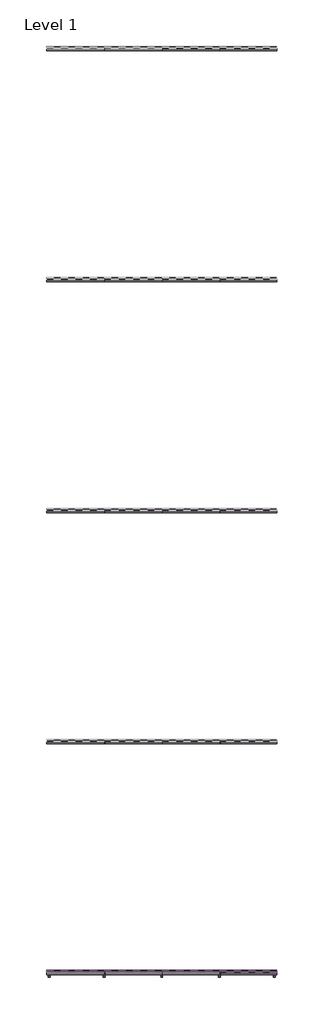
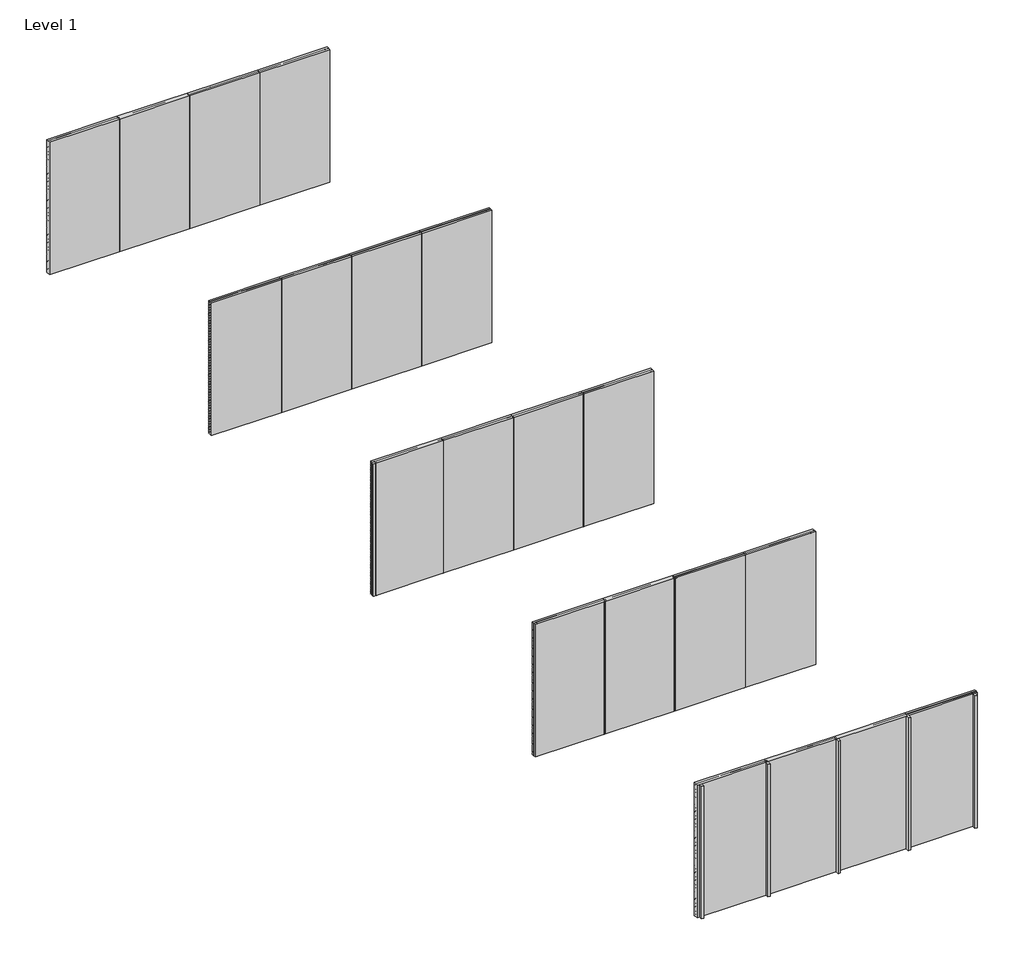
# One storey, part 1 of 3: 58 proxies, 25 members, 25 plates.
"""IFC4 building model written with IfcOpenShell, lengths in millimetres."""

from ifc_helpers import new_model, si_unit, frame, origin, origin_with_axes, place, context, project, spatial, polyline, outline, extrude, transform, mapped, element, save
from components import rectangular_mullion_07ce7cd6, rectangular_mullion_a32b29a9, rectangular_mullion_bbbcbd30, rectangular_mullion_f8d4a220, rectangular_mullion_81aaf6fe, rectangular_mullion_6e08dc26, rectangular_mullion_8b624eba, rectangular_mullion_7f158cb3, rectangular_mullion_66519e13, rectangular_mullion_5829b51c, rectangular_mullion_75c52e10, rectangular_mullion_40295cf1, rectangular_mullion_16d87653, rectangular_mullion_6cfc0fe8, rectangular_mullion_5af3f62c, empty_system_panel_empty_ae16e1e1

model = new_model("IFC4")

# Units and contexts
model_context = context("Model", 3, world=origin())
ifc_project = project(units=[si_unit("LENGTHUNIT", "METRE", prefix="MILLI")], contexts=[model_context])

# Site, building, storey
site = spatial("IfcSite", under=ifc_project)
building = spatial("IfcBuilding", under=site)
storey = spatial("IfcBuildingStorey", under=building, Name="Level 1", Elevation=0.0)

# Proxies
placement = place(None, origin())
element("IfcBuildingElementProxy", 1, Name="Wall Sweeps", at=placement, inside=storey, context=model_context, shape_type="SweptSolid", body=[
    extrude(outline(polyline([(-19995.0, 3000.0), (-19995.0, 2998.0), (-19938.8, 2932.7), (-19938.8, 2916.7), (-19997.0, 2984.3238434), (-19997.0, 3000.0), (-19995.0, 3000.0)])), frame((0.0, 0.0, 0.0), z_axis=(1.0, 0.0, 0.0), x_axis=(0.0, 1.0, 0.0)), (0.0, 0.0, 1.0), 6000.0),
])
element("IfcBuildingElementProxy", 2, Name="Wall Sweeps", at=placement, inside=storey, context=model_context, shape_type="SweptSolid", body=[
    extrude(outline(polyline([(-19995.0, 2940.0), (-19995.0, 2938.0), (-19938.8, 2872.7), (-19938.8, 2856.7), (-19997.0, 2924.3238434), (-19997.0, 2940.0), (-19995.0, 2940.0)])), frame((0.0, 0.0, 0.0), z_axis=(1.0, 0.0, 0.0), x_axis=(0.0, 1.0, 0.0)), (0.0, 0.0, 1.0), 6000.0),
])
element("IfcBuildingElementProxy", 3, Name="Wall Sweeps", at=placement, inside=storey, context=model_context, shape_type="SweptSolid", body=[
    extrude(outline(polyline([(-19995.0, 2880.0), (-19995.0, 2878.0), (-19938.8, 2812.7), (-19938.8, 2796.7), (-19997.0, 2864.3238434), (-19997.0, 2880.0), (-19995.0, 2880.0)])), frame((0.0, 0.0, 0.0), z_axis=(1.0, 0.0, 0.0), x_axis=(0.0, 1.0, 0.0)), (0.0, 0.0, 1.0), 6000.0),
])
element("IfcBuildingElementProxy", 4, Name="Wall Sweeps", at=placement, inside=storey, context=model_context, shape_type="SweptSolid", body=[
    extrude(outline(polyline([(-19995.0, 2820.0), (-19995.0, 2818.0), (-19938.8, 2752.7), (-19938.8, 2736.7), (-19997.0, 2804.3238434), (-19997.0, 2820.0), (-19995.0, 2820.0)])), frame((0.0, 0.0, 0.0), z_axis=(1.0, 0.0, 0.0), x_axis=(0.0, 1.0, 0.0)), (0.0, 0.0, 1.0), 6000.0),
])
element("IfcBuildingElementProxy", 5, Name="Wall Sweeps", at=placement, inside=storey, context=model_context, shape_type="SweptSolid", body=[
    extrude(outline(polyline([(-19995.0, 2760.0), (-19995.0, 2758.0), (-19938.8, 2692.7), (-19938.8, 2676.7), (-19997.0, 2744.3238434), (-19997.0, 2760.0), (-19995.0, 2760.0)])), frame((0.0, 0.0, 0.0), z_axis=(1.0, 0.0, 0.0), x_axis=(0.0, 1.0, 0.0)), (0.0, 0.0, 1.0), 6000.0),
])
element("IfcBuildingElementProxy", 6, Name="Wall Sweeps", at=placement, inside=storey, context=model_context, shape_type="SweptSolid", body=[
    extrude(outline(polyline([(-19995.0, 2700.0), (-19995.0, 2698.0), (-19938.8, 2632.7), (-19938.8, 2616.7), (-19997.0, 2684.3238434), (-19997.0, 2700.0), (-19995.0, 2700.0)])), frame((0.0, 0.0, 0.0), z_axis=(1.0, 0.0, 0.0), x_axis=(0.0, 1.0, 0.0)), (0.0, 0.0, 1.0), 6000.0),
])
element("IfcBuildingElementProxy", 7, Name="Wall Sweeps", at=placement, inside=storey, context=model_context, shape_type="SweptSolid", body=[
    extrude(outline(polyline([(-19995.0, 2640.0), (-19995.0, 2638.0), (-19938.8, 2572.7), (-19938.8, 2556.7), (-19997.0, 2624.3238434), (-19997.0, 2640.0), (-19995.0, 2640.0)])), frame((0.0, 0.0, 0.0), z_axis=(1.0, 0.0, 0.0), x_axis=(0.0, 1.0, 0.0)), (0.0, 0.0, 1.0), 6000.0),
])
element("IfcBuildingElementProxy", 8, Name="Wall Sweeps", at=placement, inside=storey, context=model_context, shape_type="SweptSolid", body=[
    extrude(outline(polyline([(-19995.0, 2580.0), (-19995.0, 2578.0), (-19938.8, 2512.7), (-19938.8, 2496.7), (-19997.0, 2564.3238434), (-19997.0, 2580.0), (-19995.0, 2580.0)])), frame((0.0, 0.0, 0.0), z_axis=(1.0, 0.0, 0.0), x_axis=(0.0, 1.0, 0.0)), (0.0, 0.0, 1.0), 6000.0),
])
element("IfcBuildingElementProxy", 9, Name="Wall Sweeps", at=placement, inside=storey, context=model_context, shape_type="SweptSolid", body=[
    extrude(outline(polyline([(-25995.0, 3000.0), (-25995.0, 2998.0), (-25938.8, 2932.7), (-25938.8, 2916.7), (-25997.0, 2984.3238434), (-25997.0, 3000.0), (-25995.0, 3000.0)])), frame((0.0, 0.0, 0.0), z_axis=(1.0, 0.0, 0.0), x_axis=(0.0, 1.0, 0.0)), (0.0, 0.0, 1.0), 6000.0),
])
element("IfcBuildingElementProxy", 10, Name="Wall Sweeps", at=placement, inside=storey, context=model_context, shape_type="SweptSolid", body=[
    extrude(outline(polyline([(-25995.0, 2940.0), (-25995.0, 2938.0), (-25938.8, 2872.7), (-25938.8, 2856.7), (-25997.0, 2924.3238434), (-25997.0, 2940.0), (-25995.0, 2940.0)])), frame((0.0, 0.0, 0.0), z_axis=(1.0, 0.0, 0.0), x_axis=(0.0, 1.0, 0.0)), (0.0, 0.0, 1.0), 6000.0),
])
element("IfcBuildingElementProxy", 11, Name="Wall Sweeps", at=placement, inside=storey, context=model_context, shape_type="SweptSolid", body=[
    extrude(outline(polyline([(-25995.0, 2880.0), (-25995.0, 2878.0), (-25938.8, 2812.7), (-25938.8, 2796.7), (-25997.0, 2864.3238434), (-25997.0, 2880.0), (-25995.0, 2880.0)])), frame((0.0, 0.0, 0.0), z_axis=(1.0, 0.0, 0.0), x_axis=(0.0, 1.0, 0.0)), (0.0, 0.0, 1.0), 6000.0),
])
element("IfcBuildingElementProxy", 12, Name="Wall Sweeps", at=placement, inside=storey, context=model_context, shape_type="SweptSolid", body=[
    extrude(outline(polyline([(-25995.0, 2820.0), (-25995.0, 2818.0), (-25938.8, 2752.7), (-25938.8, 2736.7), (-25997.0, 2804.3238434), (-25997.0, 2820.0), (-25995.0, 2820.0)])), frame((0.0, 0.0, 0.0), z_axis=(1.0, 0.0, 0.0), x_axis=(0.0, 1.0, 0.0)), (0.0, 0.0, 1.0), 6000.0),
])
element("IfcBuildingElementProxy", 13, Name="Wall Sweeps", at=placement, inside=storey, context=model_context, shape_type="SweptSolid", body=[
    extrude(outline(polyline([(-25995.0, 2760.0), (-25995.0, 2758.0), (-25938.8, 2692.7), (-25938.8, 2676.7), (-25997.0, 2744.3238434), (-25997.0, 2760.0), (-25995.0, 2760.0)])), frame((0.0, 0.0, 0.0), z_axis=(1.0, 0.0, 0.0), x_axis=(0.0, 1.0, 0.0)), (0.0, 0.0, 1.0), 6000.0),
])
element("IfcBuildingElementProxy", 14, Name="Wall Sweeps", at=placement, inside=storey, context=model_context, shape_type="SweptSolid", body=[
    extrude(outline(polyline([(-25995.0, 2700.0), (-25995.0, 2698.0), (-25938.8, 2632.7), (-25938.8, 2616.7), (-25997.0, 2684.3238434), (-25997.0, 2700.0), (-25995.0, 2700.0)])), frame((0.0, 0.0, 0.0), z_axis=(1.0, 0.0, 0.0), x_axis=(0.0, 1.0, 0.0)), (0.0, 0.0, 1.0), 6000.0),
])
element("IfcBuildingElementProxy", 15, Name="Wall Sweeps", at=placement, inside=storey, context=model_context, shape_type="SweptSolid", body=[
    extrude(outline(polyline([(-25995.0, 2640.0), (-25995.0, 2638.0), (-25938.8, 2572.7), (-25938.8, 2556.7), (-25997.0, 2624.3238434), (-25997.0, 2640.0), (-25995.0, 2640.0)])), frame((0.0, 0.0, 0.0), z_axis=(1.0, 0.0, 0.0), x_axis=(0.0, 1.0, 0.0)), (0.0, 0.0, 1.0), 6000.0),
])
element("IfcBuildingElementProxy", 16, Name="Wall Sweeps", at=placement, inside=storey, context=model_context, shape_type="SweptSolid", body=[
    extrude(outline(polyline([(-25995.0, 2580.0), (-25995.0, 2578.0), (-25938.8, 2512.7), (-25938.8, 2496.7), (-25997.0, 2564.3238434), (-25997.0, 2580.0), (-25995.0, 2580.0)])), frame((0.0, 0.0, 0.0), z_axis=(1.0, 0.0, 0.0), x_axis=(0.0, 1.0, 0.0)), (0.0, 0.0, 1.0), 6000.0),
])
element("IfcBuildingElementProxy", 17, Name="Wall Sweeps", at=placement, inside=storey, context=model_context, shape_type="SweptSolid", body=[
    extrude(outline(polyline([(-25995.0, 2520.0), (-25995.0, 2518.0), (-25938.8, 2452.7), (-25938.8, 2436.7), (-25997.0, 2504.3238434), (-25997.0, 2520.0), (-25995.0, 2520.0)])), frame((0.0, 0.0, 0.0), z_axis=(1.0, 0.0, 0.0), x_axis=(0.0, 1.0, 0.0)), (0.0, 0.0, 1.0), 6000.0),
])
element("IfcBuildingElementProxy", 18, Name="Wall Sweeps", at=placement, inside=storey, context=model_context, shape_type="SweptSolid", body=[
    extrude(outline(polyline([(-25995.0, 2460.0), (-25995.0, 2458.0), (-25938.8, 2392.7), (-25938.8, 2376.7), (-25997.0, 2444.3238434), (-25997.0, 2460.0), (-25995.0, 2460.0)])), frame((0.0, 0.0, 0.0), z_axis=(1.0, 0.0, 0.0), x_axis=(0.0, 1.0, 0.0)), (0.0, 0.0, 1.0), 6000.0),
])
element("IfcBuildingElementProxy", 19, Name="Wall Sweeps", at=placement, inside=storey, context=model_context, shape_type="SweptSolid", body=[
    extrude(outline(polyline([(-25995.0, 2400.0), (-25995.0, 2398.0), (-25938.8, 2332.7), (-25938.8, 2316.7), (-25997.0, 2384.3238434), (-25997.0, 2400.0), (-25995.0, 2400.0)])), frame((0.0, 0.0, 0.0), z_axis=(1.0, 0.0, 0.0), x_axis=(0.0, 1.0, 0.0)), (0.0, 0.0, 1.0), 6000.0),
])
element("IfcBuildingElementProxy", 20, Name="Wall Sweeps", at=placement, inside=storey, context=model_context, shape_type="SweptSolid", body=[
    extrude(outline(polyline([(-25995.0, 2340.0), (-25995.0, 2338.0), (-25938.8, 2272.7), (-25938.8, 2256.7), (-25997.0, 2324.3238434), (-25997.0, 2340.0), (-25995.0, 2340.0)])), frame((0.0, 0.0, 0.0), z_axis=(1.0, 0.0, 0.0), x_axis=(0.0, 1.0, 0.0)), (0.0, 0.0, 1.0), 6000.0),
])
element("IfcBuildingElementProxy", 21, Name="Wall Sweeps", at=placement, inside=storey, context=model_context, shape_type="SweptSolid", body=[
    extrude(outline(polyline([(-25995.0, 2280.0), (-25995.0, 2278.0), (-25938.8, 2212.7), (-25938.8, 2196.7), (-25997.0, 2264.3238434), (-25997.0, 2280.0), (-25995.0, 2280.0)])), frame((0.0, 0.0, 0.0), z_axis=(1.0, 0.0, 0.0), x_axis=(0.0, 1.0, 0.0)), (0.0, 0.0, 1.0), 6000.0),
])
element("IfcBuildingElementProxy", 22, Name="Wall Sweeps", at=placement, inside=storey, context=model_context, shape_type="SweptSolid", body=[
    extrude(outline(polyline([(-25995.0, 2220.0), (-25995.0, 2218.0), (-25938.8, 2152.7), (-25938.8, 2136.7), (-25997.0, 2204.3238434), (-25997.0, 2220.0), (-25995.0, 2220.0)])), frame((0.0, 0.0, 0.0), z_axis=(1.0, 0.0, 0.0), x_axis=(0.0, 1.0, 0.0)), (0.0, 0.0, 1.0), 6000.0),
])
element("IfcBuildingElementProxy", 23, Name="Wall Sweeps", at=placement, inside=storey, context=model_context, shape_type="SweptSolid", body=[
    extrude(outline(polyline([(-25995.0, 2160.0), (-25995.0, 2158.0), (-25938.8, 2092.7), (-25938.8, 2076.7), (-25997.0, 2144.3238434), (-25997.0, 2160.0), (-25995.0, 2160.0)])), frame((0.0, 0.0, 0.0), z_axis=(1.0, 0.0, 0.0), x_axis=(0.0, 1.0, 0.0)), (0.0, 0.0, 1.0), 6000.0),
])
element("IfcBuildingElementProxy", 24, Name="Wall Sweeps", at=placement, inside=storey, context=model_context, shape_type="SweptSolid", body=[
    extrude(outline(polyline([(-25995.0, 2100.0), (-25995.0, 2098.0), (-25938.8, 2032.7), (-25938.8, 2016.7), (-25997.0, 2084.3238434), (-25997.0, 2100.0), (-25995.0, 2100.0)])), frame((0.0, 0.0, 0.0), z_axis=(1.0, 0.0, 0.0), x_axis=(0.0, 1.0, 0.0)), (0.0, 0.0, 1.0), 6000.0),
])
element("IfcBuildingElementProxy", 25, Name="Wall Sweeps", at=placement, inside=storey, context=model_context, shape_type="SweptSolid", body=[
    extrude(outline(polyline([(-25995.0, 2040.0), (-25995.0, 2038.0), (-25938.8, 1972.7), (-25938.8, 1956.7), (-25997.0, 2024.3238434), (-25997.0, 2040.0), (-25995.0, 2040.0)])), frame((0.0, 0.0, 0.0), z_axis=(1.0, 0.0, 0.0), x_axis=(0.0, 1.0, 0.0)), (0.0, 0.0, 1.0), 6000.0),
])
element("IfcBuildingElementProxy", 26, Name="Wall Sweeps", at=placement, inside=storey, context=model_context, shape_type="SweptSolid", body=[
    extrude(outline(polyline([(-25995.0, 1980.0), (-25995.0, 1978.0), (-25938.8, 1912.7), (-25938.8, 1896.7), (-25997.0, 1964.3238434), (-25997.0, 1980.0), (-25995.0, 1980.0)])), frame((0.0, 0.0, 0.0), z_axis=(1.0, 0.0, 0.0), x_axis=(0.0, 1.0, 0.0)), (0.0, 0.0, 1.0), 6000.0),
])
element("IfcBuildingElementProxy", 27, Name="Wall Sweeps", at=placement, inside=storey, context=model_context, shape_type="SweptSolid", body=[
    extrude(outline(polyline([(-25995.0, 1920.0), (-25995.0, 1918.0), (-25938.8, 1852.7), (-25938.8, 1836.7), (-25997.0, 1904.3238434), (-25997.0, 1920.0), (-25995.0, 1920.0)])), frame((0.0, 0.0, 0.0), z_axis=(1.0, 0.0, 0.0), x_axis=(0.0, 1.0, 0.0)), (0.0, 0.0, 1.0), 6000.0),
])
element("IfcBuildingElementProxy", 28, Name="Wall Sweeps", at=placement, inside=storey, context=model_context, shape_type="SweptSolid", body=[
    extrude(outline(polyline([(-25995.0, 1860.0), (-25995.0, 1858.0), (-25938.8, 1792.7), (-25938.8, 1776.7), (-25997.0, 1844.3238434), (-25997.0, 1860.0), (-25995.0, 1860.0)])), frame((0.0, 0.0, 0.0), z_axis=(1.0, 0.0, 0.0), x_axis=(0.0, 1.0, 0.0)), (0.0, 0.0, 1.0), 6000.0),
])
element("IfcBuildingElementProxy", 29, Name="Wall Sweeps", at=placement, inside=storey, context=model_context, shape_type="SweptSolid", body=[
    extrude(outline(polyline([(-25995.0, 1800.0), (-25995.0, 1798.0), (-25938.8, 1732.7), (-25938.8, 1716.7), (-25997.0, 1784.3238434), (-25997.0, 1800.0), (-25995.0, 1800.0)])), frame((0.0, 0.0, 0.0), z_axis=(1.0, 0.0, 0.0), x_axis=(0.0, 1.0, 0.0)), (0.0, 0.0, 1.0), 6000.0),
])
element("IfcBuildingElementProxy", 30, Name="Wall Sweeps", at=placement, inside=storey, context=model_context, shape_type="SweptSolid", body=[
    extrude(outline(polyline([(-25995.0, 1740.0), (-25995.0, 1738.0), (-25938.8, 1672.7), (-25938.8, 1656.7), (-25997.0, 1724.3238434), (-25997.0, 1740.0), (-25995.0, 1740.0)])), frame((0.0, 0.0, 0.0), z_axis=(1.0, 0.0, 0.0), x_axis=(0.0, 1.0, 0.0)), (0.0, 0.0, 1.0), 6000.0),
])
element("IfcBuildingElementProxy", 31, Name="Wall Sweeps", at=placement, inside=storey, context=model_context, shape_type="SweptSolid", body=[
    extrude(outline(polyline([(-25995.0, 1680.0), (-25995.0, 1678.0), (-25938.8, 1612.7), (-25938.8, 1596.7), (-25997.0, 1664.3238434), (-25997.0, 1680.0), (-25995.0, 1680.0)])), frame((0.0, 0.0, 0.0), z_axis=(1.0, 0.0, 0.0), x_axis=(0.0, 1.0, 0.0)), (0.0, 0.0, 1.0), 6000.0),
])
element("IfcBuildingElementProxy", 32, Name="Wall Sweeps", at=placement, inside=storey, context=model_context, shape_type="SweptSolid", body=[
    extrude(outline(polyline([(-25995.0, 1620.0), (-25995.0, 1618.0), (-25938.8, 1552.7), (-25938.8, 1536.7), (-25997.0, 1604.3238434), (-25997.0, 1620.0), (-25995.0, 1620.0)])), frame((0.0, 0.0, 0.0), z_axis=(1.0, 0.0, 0.0), x_axis=(0.0, 1.0, 0.0)), (0.0, 0.0, 1.0), 6000.0),
])
element("IfcBuildingElementProxy", 33, Name="Wall Sweeps", at=placement, inside=storey, context=model_context, shape_type="SweptSolid", body=[
    extrude(outline(polyline([(-25995.0, 1560.0), (-25995.0, 1558.0), (-25938.8, 1492.7), (-25938.8, 1476.7), (-25997.0, 1544.3238434), (-25997.0, 1560.0), (-25995.0, 1560.0)])), frame((0.0, 0.0, 0.0), z_axis=(1.0, 0.0, 0.0), x_axis=(0.0, 1.0, 0.0)), (0.0, 0.0, 1.0), 6000.0),
])
element("IfcBuildingElementProxy", 34, Name="Wall Sweeps", at=placement, inside=storey, context=model_context, shape_type="SweptSolid", body=[
    extrude(outline(polyline([(-25995.0, 1500.0), (-25995.0, 1498.0), (-25938.8, 1432.7), (-25938.8, 1416.7), (-25997.0, 1484.3238434), (-25997.0, 1500.0), (-25995.0, 1500.0)])), frame((0.0, 0.0, 0.0), z_axis=(1.0, 0.0, 0.0), x_axis=(0.0, 1.0, 0.0)), (0.0, 0.0, 1.0), 6000.0),
])
element("IfcBuildingElementProxy", 35, Name="Wall Sweeps", at=placement, inside=storey, context=model_context, shape_type="SweptSolid", body=[
    extrude(outline(polyline([(-25995.0, 1440.0), (-25995.0, 1438.0), (-25938.8, 1372.7), (-25938.8, 1356.7), (-25997.0, 1424.3238434), (-25997.0, 1440.0), (-25995.0, 1440.0)])), frame((0.0, 0.0, 0.0), z_axis=(1.0, 0.0, 0.0), x_axis=(0.0, 1.0, 0.0)), (0.0, 0.0, 1.0), 6000.0),
])
element("IfcBuildingElementProxy", 36, Name="Wall Sweeps", at=placement, inside=storey, context=model_context, shape_type="SweptSolid", body=[
    extrude(outline(polyline([(-25995.0, 1380.0), (-25995.0, 1378.0), (-25938.8, 1312.7), (-25938.8, 1296.7), (-25997.0, 1364.3238434), (-25997.0, 1380.0), (-25995.0, 1380.0)])), frame((0.0, 0.0, 0.0), z_axis=(1.0, 0.0, 0.0), x_axis=(0.0, 1.0, 0.0)), (0.0, 0.0, 1.0), 6000.0),
])
element("IfcBuildingElementProxy", 37, Name="Wall Sweeps", at=placement, inside=storey, context=model_context, shape_type="SweptSolid", body=[
    extrude(outline(polyline([(-25995.0, 1320.0), (-25995.0, 1318.0), (-25938.8, 1252.7), (-25938.8, 1236.7), (-25997.0, 1304.3238434), (-25997.0, 1320.0), (-25995.0, 1320.0)])), frame((0.0, 0.0, 0.0), z_axis=(1.0, 0.0, 0.0), x_axis=(0.0, 1.0, 0.0)), (0.0, 0.0, 1.0), 6000.0),
])
element("IfcBuildingElementProxy", 38, Name="Wall Sweeps", at=placement, inside=storey, context=model_context, shape_type="SweptSolid", body=[
    extrude(outline(polyline([(-25995.0, 1260.0), (-25995.0, 1258.0), (-25938.8, 1192.7), (-25938.8, 1176.7), (-25997.0, 1244.3238434), (-25997.0, 1260.0), (-25995.0, 1260.0)])), frame((0.0, 0.0, 0.0), z_axis=(1.0, 0.0, 0.0), x_axis=(0.0, 1.0, 0.0)), (0.0, 0.0, 1.0), 6000.0),
])
element("IfcBuildingElementProxy", 39, Name="Wall Sweeps", at=placement, inside=storey, context=model_context, shape_type="SweptSolid", body=[
    extrude(outline(polyline([(-25995.0, 1200.0), (-25995.0, 1198.0), (-25938.8, 1132.7), (-25938.8, 1116.7), (-25997.0, 1184.3238434), (-25997.0, 1200.0), (-25995.0, 1200.0)])), frame((0.0, 0.0, 0.0), z_axis=(1.0, 0.0, 0.0), x_axis=(0.0, 1.0, 0.0)), (0.0, 0.0, 1.0), 6000.0),
])
element("IfcBuildingElementProxy", 40, Name="Wall Sweeps", at=placement, inside=storey, context=model_context, shape_type="SweptSolid", body=[
    extrude(outline(polyline([(-25995.0, 1140.0), (-25995.0, 1138.0), (-25938.8, 1072.7), (-25938.8, 1056.7), (-25997.0, 1124.3238434), (-25997.0, 1140.0), (-25995.0, 1140.0)])), frame((0.0, 0.0, 0.0), z_axis=(1.0, 0.0, 0.0), x_axis=(0.0, 1.0, 0.0)), (0.0, 0.0, 1.0), 6000.0),
])
element("IfcBuildingElementProxy", 41, Name="Wall Sweeps", at=placement, inside=storey, context=model_context, shape_type="SweptSolid", body=[
    extrude(outline(polyline([(-25995.0, 1080.0), (-25995.0, 1078.0), (-25938.8, 1012.7), (-25938.8, 996.7), (-25997.0, 1064.3238434), (-25997.0, 1080.0), (-25995.0, 1080.0)])), frame((0.0, 0.0, 0.0), z_axis=(1.0, 0.0, 0.0), x_axis=(0.0, 1.0, 0.0)), (0.0, 0.0, 1.0), 6000.0),
])
element("IfcBuildingElementProxy", 42, Name="Wall Sweeps", at=placement, inside=storey, context=model_context, shape_type="SweptSolid", body=[
    extrude(outline(polyline([(-25995.0, 1020.0), (-25995.0, 1018.0), (-25938.8, 952.7), (-25938.8, 936.7), (-25997.0, 1004.3238434), (-25997.0, 1020.0), (-25995.0, 1020.0)])), frame((0.0, 0.0, 0.0), z_axis=(1.0, 0.0, 0.0), x_axis=(0.0, 1.0, 0.0)), (0.0, 0.0, 1.0), 6000.0),
])
element("IfcBuildingElementProxy", 43, Name="Wall Sweeps", at=placement, inside=storey, context=model_context, shape_type="SweptSolid", body=[
    extrude(outline(polyline([(-25995.0, 960.0), (-25995.0, 958.0), (-25938.8, 892.7), (-25938.8, 876.7), (-25997.0, 944.3238434), (-25997.0, 960.0), (-25995.0, 960.0)])), frame((0.0, 0.0, 0.0), z_axis=(1.0, 0.0, 0.0), x_axis=(0.0, 1.0, 0.0)), (0.0, 0.0, 1.0), 6000.0),
])
element("IfcBuildingElementProxy", 44, Name="Wall Sweeps", at=placement, inside=storey, context=model_context, shape_type="SweptSolid", body=[
    extrude(outline(polyline([(-25995.0, 900.0), (-25995.0, 898.0), (-25938.8, 832.7), (-25938.8, 816.7), (-25997.0, 884.3238434), (-25997.0, 900.0), (-25995.0, 900.0)])), frame((0.0, 0.0, 0.0), z_axis=(1.0, 0.0, 0.0), x_axis=(0.0, 1.0, 0.0)), (0.0, 0.0, 1.0), 6000.0),
])
element("IfcBuildingElementProxy", 45, Name="Wall Sweeps", at=placement, inside=storey, context=model_context, shape_type="SweptSolid", body=[
    extrude(outline(polyline([(-25995.0, 840.0), (-25995.0, 838.0), (-25938.8, 772.7), (-25938.8, 756.7), (-25997.0, 824.3238434), (-25997.0, 840.0), (-25995.0, 840.0)])), frame((0.0, 0.0, 0.0), z_axis=(1.0, 0.0, 0.0), x_axis=(0.0, 1.0, 0.0)), (0.0, 0.0, 1.0), 6000.0),
])
element("IfcBuildingElementProxy", 46, Name="Wall Sweeps", at=placement, inside=storey, context=model_context, shape_type="SweptSolid", body=[
    extrude(outline(polyline([(-25995.0, 780.0), (-25995.0, 778.0), (-25938.8, 712.7), (-25938.8, 696.7), (-25997.0, 764.3238434), (-25997.0, 780.0), (-25995.0, 780.0)])), frame((0.0, 0.0, 0.0), z_axis=(1.0, 0.0, 0.0), x_axis=(0.0, 1.0, 0.0)), (0.0, 0.0, 1.0), 6000.0),
])
element("IfcBuildingElementProxy", 47, Name="Wall Sweeps", at=placement, inside=storey, context=model_context, shape_type="SweptSolid", body=[
    extrude(outline(polyline([(-25995.0, 720.0), (-25995.0, 718.0), (-25938.8, 652.7), (-25938.8, 636.7), (-25997.0, 704.3238434), (-25997.0, 720.0), (-25995.0, 720.0)])), frame((0.0, 0.0, 0.0), z_axis=(1.0, 0.0, 0.0), x_axis=(0.0, 1.0, 0.0)), (0.0, 0.0, 1.0), 6000.0),
])
element("IfcBuildingElementProxy", 48, Name="Wall Sweeps", at=placement, inside=storey, context=model_context, shape_type="SweptSolid", body=[
    extrude(outline(polyline([(-25995.0, 660.0), (-25995.0, 658.0), (-25938.8, 592.7), (-25938.8, 576.7), (-25997.0, 644.3238434), (-25997.0, 660.0), (-25995.0, 660.0)])), frame((0.0, 0.0, 0.0), z_axis=(1.0, 0.0, 0.0), x_axis=(0.0, 1.0, 0.0)), (0.0, 0.0, 1.0), 6000.0),
])
element("IfcBuildingElementProxy", 49, Name="Wall Sweeps", at=placement, inside=storey, context=model_context, shape_type="SweptSolid", body=[
    extrude(outline(polyline([(-25995.0, 600.0), (-25995.0, 598.0), (-25938.8, 532.7), (-25938.8, 516.7), (-25997.0, 584.3238434), (-25997.0, 600.0), (-25995.0, 600.0)])), frame((0.0, 0.0, 0.0), z_axis=(1.0, 0.0, 0.0), x_axis=(0.0, 1.0, 0.0)), (0.0, 0.0, 1.0), 6000.0),
])
element("IfcBuildingElementProxy", 50, Name="Wall Sweeps", at=placement, inside=storey, context=model_context, shape_type="SweptSolid", body=[
    extrude(outline(polyline([(-25995.0, 540.0), (-25995.0, 538.0), (-25938.8, 472.7), (-25938.8, 456.7), (-25997.0, 524.3238434), (-25997.0, 540.0), (-25995.0, 540.0)])), frame((0.0, 0.0, 0.0), z_axis=(1.0, 0.0, 0.0), x_axis=(0.0, 1.0, 0.0)), (0.0, 0.0, 1.0), 6000.0),
])
element("IfcBuildingElementProxy", 51, Name="Wall Sweeps", at=placement, inside=storey, context=model_context, shape_type="SweptSolid", body=[
    extrude(outline(polyline([(-25995.0, 480.0), (-25995.0, 478.0), (-25938.8, 412.7), (-25938.8, 396.7), (-25997.0, 464.3238434), (-25997.0, 480.0), (-25995.0, 480.0)])), frame((0.0, 0.0, 0.0), z_axis=(1.0, 0.0, 0.0), x_axis=(0.0, 1.0, 0.0)), (0.0, 0.0, 1.0), 6000.0),
])
element("IfcBuildingElementProxy", 52, Name="Wall Sweeps", at=placement, inside=storey, context=model_context, shape_type="SweptSolid", body=[
    extrude(outline(polyline([(-25995.0, 420.0), (-25995.0, 418.0), (-25938.8, 352.7), (-25938.8, 336.7), (-25997.0, 404.3238434), (-25997.0, 420.0), (-25995.0, 420.0)])), frame((0.0, 0.0, 0.0), z_axis=(1.0, 0.0, 0.0), x_axis=(0.0, 1.0, 0.0)), (0.0, 0.0, 1.0), 6000.0),
])
element("IfcBuildingElementProxy", 53, Name="Wall Sweeps", at=placement, inside=storey, context=model_context, shape_type="SweptSolid", body=[
    extrude(outline(polyline([(-25995.0, 360.0), (-25995.0, 358.0), (-25938.8, 292.7), (-25938.8, 276.7), (-25997.0, 344.3238434), (-25997.0, 360.0), (-25995.0, 360.0)])), frame((0.0, 0.0, 0.0), z_axis=(1.0, 0.0, 0.0), x_axis=(0.0, 1.0, 0.0)), (0.0, 0.0, 1.0), 6000.0),
])
element("IfcBuildingElementProxy", 54, Name="Wall Sweeps", at=placement, inside=storey, context=model_context, shape_type="SweptSolid", body=[
    extrude(outline(polyline([(-25995.0, 300.0), (-25995.0, 298.0), (-25938.8, 232.7), (-25938.8, 216.7), (-25997.0, 284.3238434), (-25997.0, 300.0), (-25995.0, 300.0)])), frame((0.0, 0.0, 0.0), z_axis=(1.0, 0.0, 0.0), x_axis=(0.0, 1.0, 0.0)), (0.0, 0.0, 1.0), 6000.0),
])
element("IfcBuildingElementProxy", 55, Name="Wall Sweeps", at=placement, inside=storey, context=model_context, shape_type="SweptSolid", body=[
    extrude(outline(polyline([(-25995.0, 240.0), (-25995.0, 238.0), (-25938.8, 172.7), (-25938.8, 156.7), (-25997.0, 224.3238434), (-25997.0, 240.0), (-25995.0, 240.0)])), frame((0.0, 0.0, 0.0), z_axis=(1.0, 0.0, 0.0), x_axis=(0.0, 1.0, 0.0)), (0.0, 0.0, 1.0), 6000.0),
])
element("IfcBuildingElementProxy", 56, Name="Wall Sweeps", at=placement, inside=storey, context=model_context, shape_type="SweptSolid", body=[
    extrude(outline(polyline([(-25995.0, 180.0), (-25995.0, 178.0), (-25938.8, 112.7), (-25938.8, 96.7), (-25997.0, 164.3238434), (-25997.0, 180.0), (-25995.0, 180.0)])), frame((0.0, 0.0, 0.0), z_axis=(1.0, 0.0, 0.0), x_axis=(0.0, 1.0, 0.0)), (0.0, 0.0, 1.0), 6000.0),
])
element("IfcBuildingElementProxy", 57, Name="Wall Sweeps", at=placement, inside=storey, context=model_context, shape_type="SweptSolid", body=[
    extrude(outline(polyline([(-25995.0, 120.0), (-25995.0, 118.0), (-25938.8, 52.7), (-25938.8, 36.7), (-25997.0, 104.3238434), (-25997.0, 120.0), (-25995.0, 120.0)])), frame((0.0, 0.0, 0.0), z_axis=(1.0, 0.0, 0.0), x_axis=(0.0, 1.0, 0.0)), (0.0, 0.0, 1.0), 6000.0),
])
element("IfcBuildingElementProxy", 58, Name="Wall Sweeps", at=placement, inside=storey, context=model_context, shape_type="SweptSolid", body=[
    extrude(outline(polyline([(-25995.0, 60.0), (-25995.0, 58.0), (-25938.8, -7.3), (-25938.8, -23.3), (-25997.0, 44.3238434), (-25997.0, 60.0), (-25995.0, 60.0)])), frame((0.0, 0.0, 0.0), z_axis=(1.0, 0.0, 0.0), x_axis=(0.0, 1.0, 0.0)), (0.0, 0.0, 1.0), 6000.0),
])

# Members
rectangular_mullion_shape = rectangular_mullion_07ce7cd6(model_context)
element("IfcMember", 59, ObjectType="Rectangular Mullion : RSen_21_CWM_support profile - 30x12 - left_gen_duco projects", at=placement, inside=storey, context=model_context, shape_type="MappedRepresentation", body=[
    mapped(rectangular_mullion_shape, transform((0.0, -2000.0, 0.0), x_axis=(-1.0, 0.0, 0.0), y_axis=(0.0, 1.0, 0.0), z_axis=(0.0, 0.0, -1.0))),
])
rectangular_mullion_2_shape = rectangular_mullion_a32b29a9(model_context)
element("IfcMember", 60, ObjectType="Rectangular Mullion : RSen_21_CWM_support profile - 30x12 - right_gen_duco projects", at=placement, inside=storey, context=model_context, shape_type="MappedRepresentation", body=[
    mapped(rectangular_mullion_2_shape, transform((6000.0, -2000.0, 3000.0), x_axis=(1.0, 0.0, 0.0), y_axis=(0.0, 1.0, 0.0), z_axis=(0.0, 0.0, 1.0))),
])
rectangular_mullion_3_shape = rectangular_mullion_bbbcbd30(model_context)
element("IfcMember", 61, ObjectType="Rectangular Mullion : RSen_21_CWM_support profile - 50x12 - left_gen_duco projects", at=placement, inside=storey, context=model_context, shape_type="MappedRepresentation", body=[
    mapped(rectangular_mullion_3_shape, transform((0.0, -8000.0, 0.0), x_axis=(-1.0, 0.0, 0.0), y_axis=(0.0, 1.0, 0.0), z_axis=(0.0, 0.0, -1.0))),
])
rectangular_mullion_4_shape = rectangular_mullion_f8d4a220(model_context)
element("IfcMember", 62, ObjectType="Rectangular Mullion : RSen_21_CWM_support profile - 50x12 - right_gen_duco projects", at=placement, inside=storey, context=model_context, shape_type="MappedRepresentation", body=[
    mapped(rectangular_mullion_4_shape, transform((6000.0, -8000.0, 3000.0), x_axis=(1.0, 0.0, 0.0), y_axis=(0.0, 1.0, 0.0), z_axis=(0.0, 0.0, 1.0))),
])
rectangular_mullion_5_shape = rectangular_mullion_81aaf6fe(model_context)
element("IfcMember", 63, ObjectType="Rectangular Mullion : RSen_21_CWM_support profile - 21x50 Multi - left_gen_duco projects", at=placement, inside=storey, context=model_context, shape_type="MappedRepresentation", body=[
    mapped(rectangular_mullion_5_shape, transform((0.0, -14000.0, 0.0), x_axis=(-1.0, 0.0, 0.0), y_axis=(0.0, 1.0, 0.0), z_axis=(0.0, 0.0, -1.0))),
])
rectangular_mullion_6_shape = rectangular_mullion_6e08dc26(model_context)
element("IfcMember", 64, ObjectType="Rectangular Mullion : RSen_21_CWM_support profile - 21x50 Multi - right_gen_duco projects", at=placement, inside=storey, context=model_context, shape_type="MappedRepresentation", body=[
    mapped(rectangular_mullion_6_shape, transform((6000.0, -14000.0, 3000.0), x_axis=(1.0, 0.0, 0.0), y_axis=(0.0, 1.0, 0.0), z_axis=(0.0, 0.0, 1.0))),
])
rectangular_mullion_7_shape = rectangular_mullion_8b624eba(model_context)
element("IfcMember", 65, ObjectType="Rectangular Mullion : RSen_21_CWM_support profile - 30x12_gen_duco projects", at=placement, inside=storey, context=model_context, shape_type="MappedRepresentation", body=[
    mapped(rectangular_mullion_7_shape, transform((4500.0, -2000.0, 0.0), x_axis=(-1.0, 0.0, 0.0), y_axis=(0.0, 1.0, 0.0), z_axis=(0.0, 0.0, -1.0))),
])
element("IfcMember", 66, ObjectType="Rectangular Mullion : RSen_21_CWM_support profile - 30x12_gen_duco projects", at=placement, inside=storey, context=model_context, shape_type="MappedRepresentation", body=[
    mapped(rectangular_mullion_7_shape, transform((3000.0, -2000.0, 0.0), x_axis=(-1.0, 0.0, 0.0), y_axis=(0.0, 1.0, 0.0), z_axis=(0.0, 0.0, -1.0))),
])
element("IfcMember", 67, ObjectType="Rectangular Mullion : RSen_21_CWM_support profile - 30x12_gen_duco projects", at=placement, inside=storey, context=model_context, shape_type="MappedRepresentation", body=[
    mapped(rectangular_mullion_7_shape, transform((1500.0, -2000.0, 0.0), x_axis=(-1.0, 0.0, 0.0), y_axis=(0.0, 1.0, 0.0), z_axis=(0.0, 0.0, -1.0))),
])
rectangular_mullion_8_shape = rectangular_mullion_7f158cb3(model_context)
element("IfcMember", 68, ObjectType="Rectangular Mullion : RSen_21_CWM_support profile - 50x12_gen_duco projects", at=placement, inside=storey, context=model_context, shape_type="MappedRepresentation", body=[
    mapped(rectangular_mullion_8_shape, transform((4500.0, -8000.0, 0.0), x_axis=(-1.0, 0.0, 0.0), y_axis=(0.0, 1.0, 0.0), z_axis=(0.0, 0.0, -1.0))),
])
element("IfcMember", 69, ObjectType="Rectangular Mullion : RSen_21_CWM_support profile - 50x12_gen_duco projects", at=placement, inside=storey, context=model_context, shape_type="MappedRepresentation", body=[
    mapped(rectangular_mullion_8_shape, transform((3000.0, -8000.0, 0.0), x_axis=(-1.0, 0.0, 0.0), y_axis=(0.0, 1.0, 0.0), z_axis=(0.0, 0.0, -1.0))),
])
element("IfcMember", 70, ObjectType="Rectangular Mullion : RSen_21_CWM_support profile - 50x12_gen_duco projects", at=placement, inside=storey, context=model_context, shape_type="MappedRepresentation", body=[
    mapped(rectangular_mullion_8_shape, transform((1500.0, -8000.0, 0.0), x_axis=(-1.0, 0.0, 0.0), y_axis=(0.0, 1.0, 0.0), z_axis=(0.0, 0.0, -1.0))),
])
rectangular_mullion_9_shape = rectangular_mullion_66519e13(model_context)
element("IfcMember", 71, ObjectType="Rectangular Mullion : RSen_21_CWM_support profile - 21x50 Multi_gen_duco projects", at=placement, inside=storey, context=model_context, shape_type="MappedRepresentation", body=[
    mapped(rectangular_mullion_9_shape, transform((4500.0, -14000.0, 0.0), x_axis=(-1.0, 0.0, 0.0), y_axis=(0.0, 1.0, 0.0), z_axis=(0.0, 0.0, -1.0))),
])
element("IfcMember", 72, ObjectType="Rectangular Mullion : RSen_21_CWM_support profile - 21x50 Multi_gen_duco projects", at=placement, inside=storey, context=model_context, shape_type="MappedRepresentation", body=[
    mapped(rectangular_mullion_9_shape, transform((3000.0, -14000.0, 0.0), x_axis=(-1.0, 0.0, 0.0), y_axis=(0.0, 1.0, 0.0), z_axis=(0.0, 0.0, -1.0))),
])
element("IfcMember", 73, ObjectType="Rectangular Mullion : RSen_21_CWM_support profile - 21x50 Multi_gen_duco projects", at=placement, inside=storey, context=model_context, shape_type="MappedRepresentation", body=[
    mapped(rectangular_mullion_9_shape, transform((1500.0, -14000.0, 0.0), x_axis=(-1.0, 0.0, 0.0), y_axis=(0.0, 1.0, 0.0), z_axis=(0.0, 0.0, -1.0))),
])
rectangular_mullion_10_shape = rectangular_mullion_5829b51c(model_context)
element("IfcMember", 74, ObjectType="Rectangular Mullion : RSen_21_CWM_support profile - 50x50_gen_duco projects", at=placement, inside=storey, context=model_context, shape_type="MappedRepresentation", body=[
    mapped(rectangular_mullion_10_shape, transform((4500.0, -20000.0, 0.0), x_axis=(-1.0, 0.0, 0.0), y_axis=(0.0, 1.0, 0.0), z_axis=(0.0, 0.0, -1.0))),
])
element("IfcMember", 75, ObjectType="Rectangular Mullion : RSen_21_CWM_support profile - 50x50_gen_duco projects", at=placement, inside=storey, context=model_context, shape_type="MappedRepresentation", body=[
    mapped(rectangular_mullion_10_shape, transform((3000.0, -20000.0, 0.0), x_axis=(-1.0, 0.0, 0.0), y_axis=(0.0, 1.0, 0.0), z_axis=(0.0, 0.0, -1.0))),
])
element("IfcMember", 76, ObjectType="Rectangular Mullion : RSen_21_CWM_support profile - 50x50_gen_duco projects", at=placement, inside=storey, context=model_context, shape_type="MappedRepresentation", body=[
    mapped(rectangular_mullion_10_shape, transform((1500.0, -20000.0, 0.0), x_axis=(-1.0, 0.0, 0.0), y_axis=(0.0, 1.0, 0.0), z_axis=(0.0, 0.0, -1.0))),
])
rectangular_mullion_11_shape = rectangular_mullion_75c52e10(model_context)
element("IfcMember", 77, ObjectType="Rectangular Mullion : RSen_21_CWM_support profile - 50x50 - left_gen_duco projects", at=placement, inside=storey, context=model_context, shape_type="MappedRepresentation", body=[
    mapped(rectangular_mullion_11_shape, transform((0.0, -20000.0, 0.0), x_axis=(-1.0, 0.0, 0.0), y_axis=(0.0, 1.0, 0.0), z_axis=(0.0, 0.0, -1.0))),
])
rectangular_mullion_12_shape = rectangular_mullion_40295cf1(model_context)
element("IfcMember", 78, ObjectType="Rectangular Mullion : RSen_21_CWM_support profile - 50x50 - right_gen_duco projects", at=placement, inside=storey, context=model_context, shape_type="MappedRepresentation", body=[
    mapped(rectangular_mullion_12_shape, transform((6000.0, -20000.0, 3000.0), x_axis=(1.0, 0.0, 0.0), y_axis=(0.0, 1.0, 0.0), z_axis=(0.0, 0.0, 1.0))),
])
rectangular_mullion_13_shape = rectangular_mullion_16d87653(model_context)
element("IfcMember", 79, ObjectType="Rectangular Mullion : RSen_21_CWM_support profile - 50x125_gen_duco projects", at=placement, inside=storey, context=model_context, shape_type="MappedRepresentation", body=[
    mapped(rectangular_mullion_13_shape, transform((4500.0, -26000.0, 0.0), x_axis=(-1.0, 0.0, 0.0), y_axis=(0.0, 1.0, 0.0), z_axis=(0.0, 0.0, -1.0))),
])
element("IfcMember", 80, ObjectType="Rectangular Mullion : RSen_21_CWM_support profile - 50x125_gen_duco projects", at=placement, inside=storey, context=model_context, shape_type="MappedRepresentation", body=[
    mapped(rectangular_mullion_13_shape, transform((3000.0, -26000.0, 0.0), x_axis=(-1.0, 0.0, 0.0), y_axis=(0.0, 1.0, 0.0), z_axis=(0.0, 0.0, -1.0))),
])
element("IfcMember", 81, ObjectType="Rectangular Mullion : RSen_21_CWM_support profile - 50x125_gen_duco projects", at=placement, inside=storey, context=model_context, shape_type="MappedRepresentation", body=[
    mapped(rectangular_mullion_13_shape, transform((1500.0, -26000.0, 0.0), x_axis=(-1.0, 0.0, 0.0), y_axis=(0.0, 1.0, 0.0), z_axis=(0.0, 0.0, -1.0))),
])
rectangular_mullion_14_shape = rectangular_mullion_6cfc0fe8(model_context)
element("IfcMember", 82, ObjectType="Rectangular Mullion : RSen_21_CWM_support profile - 50x125 - left_gen_duco projects", at=placement, inside=storey, context=model_context, shape_type="MappedRepresentation", body=[
    mapped(rectangular_mullion_14_shape, transform((0.0, -26000.0, 0.0), x_axis=(-1.0, 0.0, 0.0), y_axis=(0.0, 1.0, 0.0), z_axis=(0.0, 0.0, -1.0))),
])
rectangular_mullion_15_shape = rectangular_mullion_5af3f62c(model_context)
element("IfcMember", 83, ObjectType="Rectangular Mullion : RSen_21_CWM_support profile - 50x125 - right_gen_duco projects", at=placement, inside=storey, context=model_context, shape_type="MappedRepresentation", body=[
    mapped(rectangular_mullion_15_shape, transform((6000.0, -26000.0, 3000.0), x_axis=(1.0, 0.0, 0.0), y_axis=(0.0, 1.0, 0.0), z_axis=(0.0, 0.0, 1.0))),
])

# Plates
element("IfcPlate", 84, ObjectType="RSen_21_WA_louvre blade acoustic W 75Z_gen_duco projects", at=placement, inside=storey, context=model_context, shape_type="SweptSolid", body=[
    extrude(outline(polyline([(0.0, -1999.0), (6000.0, -1999.0), (6000.0, -2001.0), (0.0, -2001.0), (0.0, -1999.0)])), origin_with_axes(), (0.0, 0.0, 1.0), 3000.0),
])
element("IfcPlate", 85, ObjectType="RSen_21_WA_louvre blade acoustic W 75Z_gen_duco projects", at=placement, inside=storey, context=model_context, shape_type="SweptSolid", body=[
    extrude(outline(polyline([(0.0, -7999.0), (6000.0, -7999.0), (6000.0, -8001.0), (0.0, -8001.0), (0.0, -7999.0)])), origin_with_axes(), (0.0, 0.0, 1.0), 3000.0),
])
element("IfcPlate", 86, ObjectType="RSen_21_WA_louvre blade acoustic W 75Z_gen_duco projects", at=placement, inside=storey, context=model_context, shape_type="SweptSolid", body=[
    extrude(outline(polyline([(0.0, -13999.0), (6000.0, -13999.0), (6000.0, -14001.0), (0.0, -14001.0), (0.0, -13999.0)])), origin_with_axes(), (0.0, 0.0, 1.0), 3000.0),
])
element("IfcPlate", 87, ObjectType="RSen_21_WA_louvre blade acoustic W 75Z_gen_duco projects", at=placement, inside=storey, context=model_context, shape_type="SweptSolid", body=[
    extrude(outline(polyline([(0.0, -19999.0), (6000.0, -19999.0), (6000.0, -20001.0), (0.0, -20001.0), (0.0, -19999.0)])), origin_with_axes(), (0.0, 0.0, 1.0), 3000.0),
])
element("IfcPlate", 88, ObjectType="RSen_21_WA_louvre blade acoustic W 75Z_gen_duco projects", at=placement, inside=storey, context=model_context, shape_type="SweptSolid", body=[
    extrude(outline(polyline([(0.0, -25999.0), (6000.0, -25999.0), (6000.0, -26001.0), (0.0, -26001.0), (0.0, -25999.0)])), origin_with_axes(), (0.0, 0.0, 1.0), 3000.0),
])
empty_system_panel_empty_shape = empty_system_panel_empty_ae16e1e1(model_context)
element("IfcPlate", 89, ObjectType="Empty System Panel : Empty", at=placement, inside=storey, context=model_context, shape_type="MappedRepresentation", body=[
    mapped(empty_system_panel_empty_shape, transform((5250.0, -2000.0, 0.0), x_axis=(-1.0, 0.0, 0.0), y_axis=(0.0, -1.0, 0.0), z_axis=(0.0, 0.0, 1.0))),
])
element("IfcPlate", 90, ObjectType="Empty System Panel : Empty", at=placement, inside=storey, context=model_context, shape_type="MappedRepresentation", body=[
    mapped(empty_system_panel_empty_shape, transform((5250.0, -8000.0, 0.0), x_axis=(-1.0, 0.0, 0.0), y_axis=(0.0, -1.0, 0.0), z_axis=(0.0, 0.0, 1.0))),
])
element("IfcPlate", 91, ObjectType="Empty System Panel : Empty", at=placement, inside=storey, context=model_context, shape_type="MappedRepresentation", body=[
    mapped(empty_system_panel_empty_shape, transform((5250.0, -14000.0, 0.0), x_axis=(-1.0, 0.0, 0.0), y_axis=(0.0, -1.0, 0.0), z_axis=(0.0, 0.0, 1.0))),
])
element("IfcPlate", 92, ObjectType="Empty System Panel : Empty", at=placement, inside=storey, context=model_context, shape_type="MappedRepresentation", body=[
    mapped(empty_system_panel_empty_shape, transform((5250.0, -20000.0, 0.0), x_axis=(-1.0, 0.0, 0.0), y_axis=(0.0, -1.0, 0.0), z_axis=(0.0, 0.0, 1.0))),
])
element("IfcPlate", 93, ObjectType="Empty System Panel : Empty", at=placement, inside=storey, context=model_context, shape_type="MappedRepresentation", body=[
    mapped(empty_system_panel_empty_shape, transform((3750.0, -2000.0, 0.0), x_axis=(-1.0, 0.0, 0.0), y_axis=(0.0, -1.0, 0.0), z_axis=(0.0, 0.0, 1.0))),
])
element("IfcPlate", 94, ObjectType="Empty System Panel : Empty", at=placement, inside=storey, context=model_context, shape_type="MappedRepresentation", body=[
    mapped(empty_system_panel_empty_shape, transform((2250.0, -2000.0, 0.0), x_axis=(-1.0, 0.0, 0.0), y_axis=(0.0, -1.0, 0.0), z_axis=(0.0, 0.0, 1.0))),
])
element("IfcPlate", 95, ObjectType="Empty System Panel : Empty", at=placement, inside=storey, context=model_context, shape_type="MappedRepresentation", body=[
    mapped(empty_system_panel_empty_shape, transform((750.0, -2000.0, 0.0), x_axis=(-1.0, 0.0, 0.0), y_axis=(0.0, -1.0, 0.0), z_axis=(0.0, 0.0, 1.0))),
])
element("IfcPlate", 96, ObjectType="Empty System Panel : Empty", at=placement, inside=storey, context=model_context, shape_type="MappedRepresentation", body=[
    mapped(empty_system_panel_empty_shape, transform((3750.0, -8000.0, 0.0), x_axis=(-1.0, 0.0, 0.0), y_axis=(0.0, -1.0, 0.0), z_axis=(0.0, 0.0, 1.0))),
])
element("IfcPlate", 97, ObjectType="Empty System Panel : Empty", at=placement, inside=storey, context=model_context, shape_type="MappedRepresentation", body=[
    mapped(empty_system_panel_empty_shape, transform((2250.0, -8000.0, 0.0), x_axis=(-1.0, 0.0, 0.0), y_axis=(0.0, -1.0, 0.0), z_axis=(0.0, 0.0, 1.0))),
])
element("IfcPlate", 98, ObjectType="Empty System Panel : Empty", at=placement, inside=storey, context=model_context, shape_type="MappedRepresentation", body=[
    mapped(empty_system_panel_empty_shape, transform((750.0, -8000.0, 0.0), x_axis=(-1.0, 0.0, 0.0), y_axis=(0.0, -1.0, 0.0), z_axis=(0.0, 0.0, 1.0))),
])
element("IfcPlate", 99, ObjectType="Empty System Panel : Empty", at=placement, inside=storey, context=model_context, shape_type="MappedRepresentation", body=[
    mapped(empty_system_panel_empty_shape, transform((3750.0, -14000.0, 0.0), x_axis=(-1.0, 0.0, 0.0), y_axis=(0.0, -1.0, 0.0), z_axis=(0.0, 0.0, 1.0))),
])
element("IfcPlate", 100, ObjectType="Empty System Panel : Empty", at=placement, inside=storey, context=model_context, shape_type="MappedRepresentation", body=[
    mapped(empty_system_panel_empty_shape, transform((2250.0, -14000.0, 0.0), x_axis=(-1.0, 0.0, 0.0), y_axis=(0.0, -1.0, 0.0), z_axis=(0.0, 0.0, 1.0))),
])
element("IfcPlate", 101, ObjectType="Empty System Panel : Empty", at=placement, inside=storey, context=model_context, shape_type="MappedRepresentation", body=[
    mapped(empty_system_panel_empty_shape, transform((750.0, -14000.0, 0.0), x_axis=(-1.0, 0.0, 0.0), y_axis=(0.0, -1.0, 0.0), z_axis=(0.0, 0.0, 1.0))),
])
element("IfcPlate", 102, ObjectType="Empty System Panel : Empty", at=placement, inside=storey, context=model_context, shape_type="MappedRepresentation", body=[
    mapped(empty_system_panel_empty_shape, transform((3750.0, -20000.0, 0.0), x_axis=(-1.0, 0.0, 0.0), y_axis=(0.0, -1.0, 0.0), z_axis=(0.0, 0.0, 1.0))),
])
element("IfcPlate", 103, ObjectType="Empty System Panel : Empty", at=placement, inside=storey, context=model_context, shape_type="MappedRepresentation", body=[
    mapped(empty_system_panel_empty_shape, transform((2250.0, -20000.0, 0.0), x_axis=(-1.0, 0.0, 0.0), y_axis=(0.0, -1.0, 0.0), z_axis=(0.0, 0.0, 1.0))),
])
element("IfcPlate", 104, ObjectType="Empty System Panel : Empty", at=placement, inside=storey, context=model_context, shape_type="MappedRepresentation", body=[
    mapped(empty_system_panel_empty_shape, transform((750.0, -20000.0, 0.0), x_axis=(-1.0, 0.0, 0.0), y_axis=(0.0, -1.0, 0.0), z_axis=(0.0, 0.0, 1.0))),
])
element("IfcPlate", 105, ObjectType="Empty System Panel : Empty", at=placement, inside=storey, context=model_context, shape_type="MappedRepresentation", body=[
    mapped(empty_system_panel_empty_shape, transform((5250.0, -26000.0, 0.0), x_axis=(-1.0, 0.0, 0.0), y_axis=(0.0, -1.0, 0.0), z_axis=(0.0, 0.0, 1.0))),
])
element("IfcPlate", 106, ObjectType="Empty System Panel : Empty", at=placement, inside=storey, context=model_context, shape_type="MappedRepresentation", body=[
    mapped(empty_system_panel_empty_shape, transform((3750.0, -26000.0, 0.0), x_axis=(-1.0, 0.0, 0.0), y_axis=(0.0, -1.0, 0.0), z_axis=(0.0, 0.0, 1.0))),
])
element("IfcPlate", 107, ObjectType="Empty System Panel : Empty", at=placement, inside=storey, context=model_context, shape_type="MappedRepresentation", body=[
    mapped(empty_system_panel_empty_shape, transform((2250.0, -26000.0, 0.0), x_axis=(-1.0, 0.0, 0.0), y_axis=(0.0, -1.0, 0.0), z_axis=(0.0, 0.0, 1.0))),
])
element("IfcPlate", 108, ObjectType="Empty System Panel : Empty", at=placement, inside=storey, context=model_context, shape_type="MappedRepresentation", body=[
    mapped(empty_system_panel_empty_shape, transform((750.0, -26000.0, 0.0), x_axis=(-1.0, 0.0, 0.0), y_axis=(0.0, -1.0, 0.0), z_axis=(0.0, 0.0, 1.0))),
])

save(model, "model.ifc")
